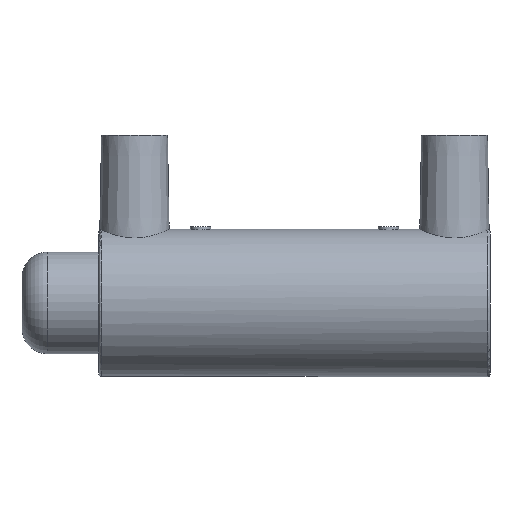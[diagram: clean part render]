
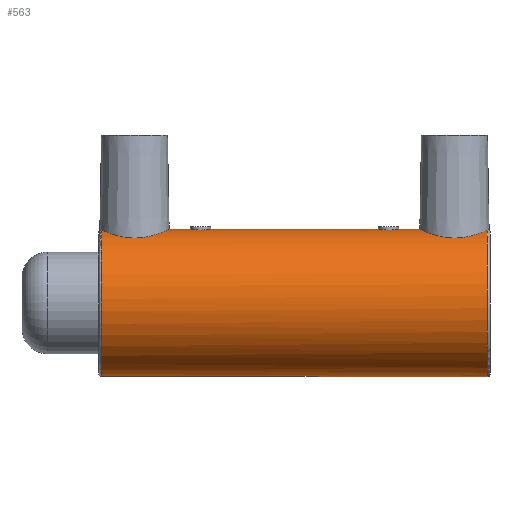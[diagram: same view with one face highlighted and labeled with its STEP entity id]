
A CAD part, front view. The second image highlights one B-rep face of the part: STEP entity #563.
In plain terms, the highlighted cylindrical face has radius 14.5 mm (diameter 29 mm), a full revolution.
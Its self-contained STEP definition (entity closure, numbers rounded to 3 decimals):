
#108=CIRCLE('',#634,14.5);
#109=CIRCLE('',#635,14.5);
#145=ORIENTED_EDGE('',*,*,#279,.F.);
#146=ORIENTED_EDGE('',*,*,#280,.F.);
#147=ORIENTED_EDGE('',*,*,#281,.T.);
#148=ORIENTED_EDGE('',*,*,#282,.T.);
#149=ORIENTED_EDGE('',*,*,#283,.T.);
#150=ORIENTED_EDGE('',*,*,#284,.T.);
#279=EDGE_CURVE('',#346,#346,#399,.T.);
#280=EDGE_CURVE('',#347,#347,#400,.T.);
#281=EDGE_CURVE('',#348,#349,#108,.F.);
#282=EDGE_CURVE('',#349,#348,#401,.T.);
#283=EDGE_CURVE('',#350,#351,#109,.F.);
#284=EDGE_CURVE('',#351,#350,#402,.T.);
#346=VERTEX_POINT('',#921);
#347=VERTEX_POINT('',#933);
#348=VERTEX_POINT('',#935);
#349=VERTEX_POINT('',#936);
#350=VERTEX_POINT('',#957);
#351=VERTEX_POINT('',#958);
#399=B_SPLINE_CURVE_WITH_KNOTS('',3,(#910,#911,#912,#913,#914,#915,#916,
#917,#918,#919,#920),.UNSPECIFIED.,.T.,.F.,(1,1,1,1,1,1,1,1,1,1,1,1,1,1,
1),(-0.005,-0.003,-0.002,0.,
0.002,0.003,0.005,0.006,
0.008,0.009,0.011,0.013,
0.014,0.016,0.017),.UNSPECIFIED.);
#400=B_SPLINE_CURVE_WITH_KNOTS('',3,(#922,#923,#924,#925,#926,#927,#928,
#929,#930,#931,#932),.UNSPECIFIED.,.T.,.F.,(1,1,1,1,1,1,1,1,1,1,1,1,1,1,
1),(-0.005,-0.003,-0.002,0.,
0.002,0.003,0.005,0.006,
0.008,0.009,0.011,0.013,
0.014,0.016,0.017),.UNSPECIFIED.);
#401=B_SPLINE_CURVE_WITH_KNOTS('',3,(#937,#938,#939,#940,#941,#942,#943,
#944,#945,#946,#947,#948,#949,#950,#951,#952,#953,#954,#955),
 .UNSPECIFIED.,.F.,.F.,(4,1,1,1,1,1,1,1,1,1,1,1,1,1,1,1,4),(0.,
0.002,0.005,0.007,0.01,
0.012,0.015,0.017,0.02,
0.022,0.024,0.027,0.029,
0.032,0.034,0.037,0.039),
 .UNSPECIFIED.);
#402=B_SPLINE_CURVE_WITH_KNOTS('',3,(#959,#960,#961,#962,#963,#964,#965,
#966,#967,#968,#969,#970,#971,#972,#973,#974,#975,#976,#977),
 .UNSPECIFIED.,.F.,.F.,(4,1,1,1,1,1,1,1,1,1,1,1,1,1,1,1,4),(0.,
0.002,0.005,0.007,0.01,
0.012,0.015,0.017,0.02,
0.022,0.024,0.027,0.029,
0.032,0.034,0.037,0.039),
 .UNSPECIFIED.);
#405=EDGE_LOOP('',(#145));
#406=EDGE_LOOP('',(#146));
#407=EDGE_LOOP('',(#147,#148));
#408=EDGE_LOOP('',(#149,#150));
#477=FACE_BOUND('',#405,.T.);
#478=FACE_BOUND('',#406,.T.);
#479=FACE_BOUND('',#407,.T.);
#480=FACE_BOUND('',#408,.T.);
#549=CYLINDRICAL_SURFACE('',#633,14.5);
#563=ADVANCED_FACE('',(#477,#478,#479,#480),#549,.T.);
#633=AXIS2_PLACEMENT_3D('',#909,#718,#719);
#634=AXIS2_PLACEMENT_3D('',#934,#720,#721);
#635=AXIS2_PLACEMENT_3D('',#956,#722,#723);
#718=DIRECTION('',(-1.,0.,0.));
#719=DIRECTION('',(0.,0.,1.));
#720=DIRECTION('',(-1.,0.,0.));
#721=DIRECTION('',(0.,0.,1.));
#722=DIRECTION('',(1.,0.,0.));
#723=DIRECTION('',(0.,0.,-1.));
#909=CARTESIAN_POINT('',(-60.,0.,0.));
#910=CARTESIAN_POINT('',(20.066,-1.569,14.431));
#911=CARTESIAN_POINT('',(20.717,0.,14.535));
#912=CARTESIAN_POINT('',(20.066,1.567,14.431));
#913=CARTESIAN_POINT('',(18.502,2.216,14.327));
#914=CARTESIAN_POINT('',(16.933,1.568,14.431));
#915=CARTESIAN_POINT('',(16.284,0.,14.534));
#916=CARTESIAN_POINT('',(16.931,-1.565,14.431));
#917=CARTESIAN_POINT('',(18.498,-2.216,14.327));
#918=CARTESIAN_POINT('',(20.066,-1.569,14.431));
#919=CARTESIAN_POINT('',(20.717,0.,14.535));
#920=CARTESIAN_POINT('',(20.066,1.567,14.431));
#921=CARTESIAN_POINT('',(20.5,0.,14.5));
#922=CARTESIAN_POINT('',(-16.934,-1.569,14.431));
#923=CARTESIAN_POINT('',(-16.283,0.,14.535));
#924=CARTESIAN_POINT('',(-16.934,1.567,14.431));
#925=CARTESIAN_POINT('',(-18.498,2.216,14.327));
#926=CARTESIAN_POINT('',(-20.067,1.568,14.431));
#927=CARTESIAN_POINT('',(-20.716,0.,14.534));
#928=CARTESIAN_POINT('',(-20.069,-1.565,14.431));
#929=CARTESIAN_POINT('',(-18.502,-2.216,14.327));
#930=CARTESIAN_POINT('',(-16.934,-1.569,14.431));
#931=CARTESIAN_POINT('',(-16.283,0.,14.535));
#932=CARTESIAN_POINT('',(-16.934,1.567,14.431));
#933=CARTESIAN_POINT('',(-16.5,0.,14.5));
#934=CARTESIAN_POINT('',(-38.,0.,0.));
#935=CARTESIAN_POINT('',(-38.,-2.083,14.35));
#936=CARTESIAN_POINT('',(-38.,2.083,14.35));
#937=CARTESIAN_POINT('',(-38.,2.083,14.35));
#938=CARTESIAN_POINT('',(-37.752,2.865,14.236));
#939=CARTESIAN_POINT('',(-36.993,4.294,13.897));
#940=CARTESIAN_POINT('',(-35.204,5.922,13.261));
#941=CARTESIAN_POINT('',(-32.937,6.851,12.782));
#942=CARTESIAN_POINT('',(-30.427,6.92,12.743));
#943=CARTESIAN_POINT('',(-28.093,6.101,13.176));
#944=CARTESIAN_POINT('',(-26.228,4.566,13.808));
#945=CARTESIAN_POINT('',(-24.982,2.472,14.352));
#946=CARTESIAN_POINT('',(-24.528,0.018,14.573));
#947=CARTESIAN_POINT('',(-24.97,-2.444,14.357));
#948=CARTESIAN_POINT('',(-26.213,-4.549,13.813));
#949=CARTESIAN_POINT('',(-28.074,-6.089,13.181));
#950=CARTESIAN_POINT('',(-30.393,-6.914,12.746));
#951=CARTESIAN_POINT('',(-32.912,-6.859,12.778));
#952=CARTESIAN_POINT('',(-35.197,-5.928,13.258));
#953=CARTESIAN_POINT('',(-36.987,-4.303,13.895));
#954=CARTESIAN_POINT('',(-37.751,-2.865,14.236));
#955=CARTESIAN_POINT('',(-38.,-2.083,14.35));
#956=CARTESIAN_POINT('',(38.,0.,0.));
#957=CARTESIAN_POINT('',(38.,2.083,14.35));
#958=CARTESIAN_POINT('',(38.,-2.083,14.35));
#959=CARTESIAN_POINT('',(38.,-2.083,14.35));
#960=CARTESIAN_POINT('',(37.752,-2.865,14.236));
#961=CARTESIAN_POINT('',(36.993,-4.294,13.897));
#962=CARTESIAN_POINT('',(35.204,-5.922,13.261));
#963=CARTESIAN_POINT('',(32.937,-6.851,12.782));
#964=CARTESIAN_POINT('',(30.427,-6.92,12.743));
#965=CARTESIAN_POINT('',(28.093,-6.101,13.176));
#966=CARTESIAN_POINT('',(26.228,-4.566,13.808));
#967=CARTESIAN_POINT('',(24.982,-2.472,14.352));
#968=CARTESIAN_POINT('',(24.528,-0.018,14.573));
#969=CARTESIAN_POINT('',(24.97,2.444,14.357));
#970=CARTESIAN_POINT('',(26.213,4.549,13.813));
#971=CARTESIAN_POINT('',(28.074,6.089,13.181));
#972=CARTESIAN_POINT('',(30.393,6.914,12.746));
#973=CARTESIAN_POINT('',(32.912,6.859,12.778));
#974=CARTESIAN_POINT('',(35.197,5.928,13.258));
#975=CARTESIAN_POINT('',(36.987,4.303,13.895));
#976=CARTESIAN_POINT('',(37.751,2.865,14.236));
#977=CARTESIAN_POINT('',(38.,2.083,14.35));
